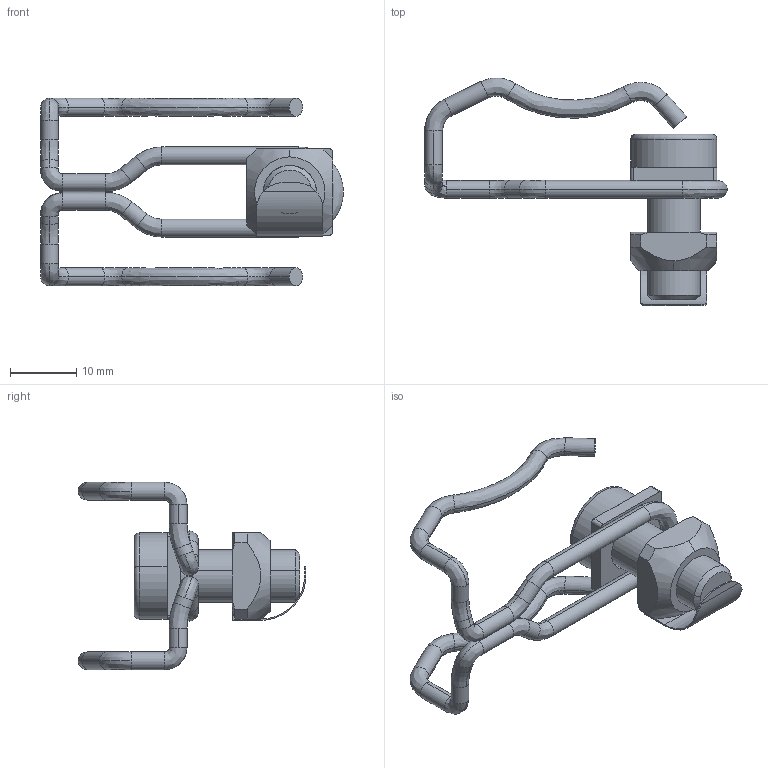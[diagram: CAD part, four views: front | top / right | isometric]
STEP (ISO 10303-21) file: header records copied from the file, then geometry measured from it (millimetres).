
FILE_DESCRIPTION (( 'STEP AP214' ), '1' );
FILE_NAME ('1.3051 Liukuovipyörän pysäytin.STEP', '2025-09-09T09:35:27', ( '' ), ( '' ), 'SwSTEP 2.0', 'SolidWorks 2025', '' );
FILE_SCHEMA (( 'AUTOMOTIVE_DESIGN' ));
Length unit declared in the file: millimetre
Products named in the file (1): 1.3051 Liukuovipyörän pysäytin
Bounding box: 45.7 x 34.39 x 28.3 mm (x, y, z)
Volume: 3684.4 mm3; surface area: 4050.1 mm2
Topology: 4 solids, 4 shells, 144 faces, 336 edges, 200 vertices
Faces by surface type: cylinder 48, plane 45, bspline 38, cone 9, torus 4
Entity records: 6260 total; most frequent: CARTESIAN_POINT 1390, DIRECTION 712, ORIENTED_EDGE 668, EDGE_CURVE 334, AXIS2_PLACEMENT_3D 290, VERTEX_POINT 200, CIRCLE 183, EDGE_LOOP 150
